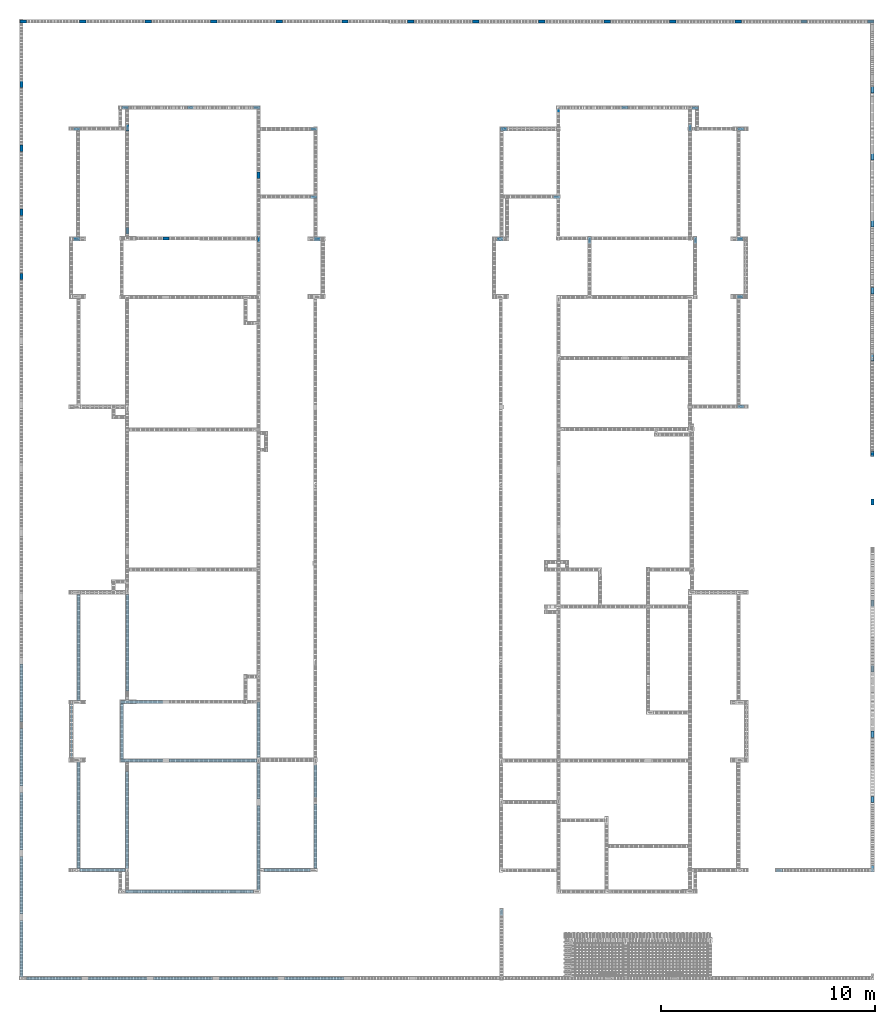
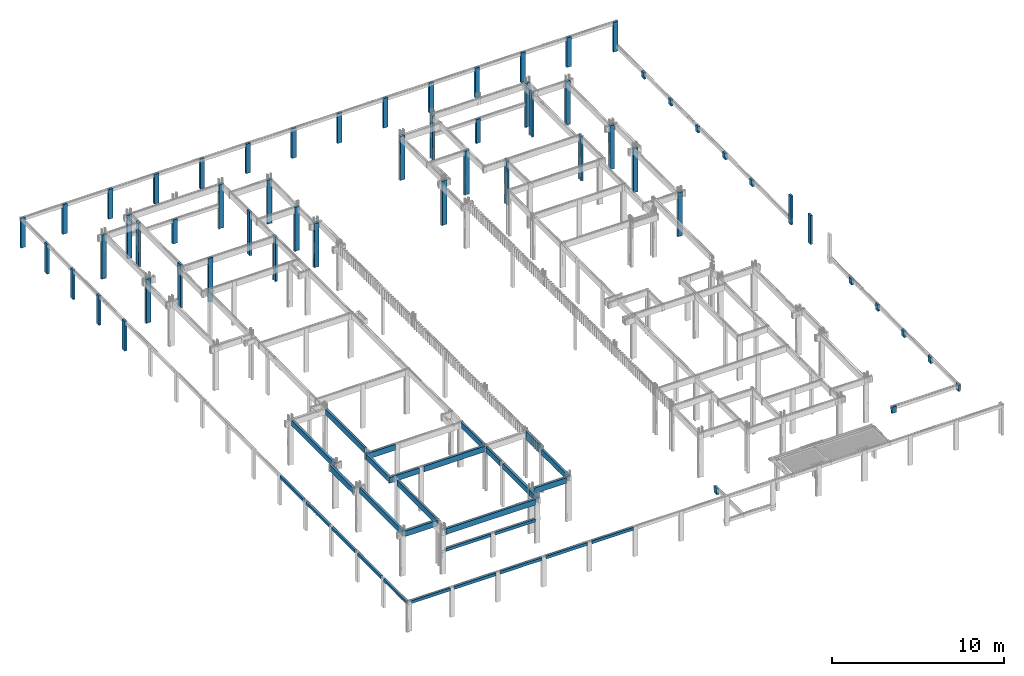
# One storey, part 2 of 236: 58 columns, 30 beams.
"""IFC4 building model written with IfcOpenShell, lengths in centimetres."""

import ifcopenshell
import ifcopenshell.guid

model = None  # the IFC model being written
_history = None  # IfcOwnerHistory: only IFC2X3 demands one
_inside = {}  # id of a spatial element -> (the spatial element, [elements in it])
_under = {}  # id of a project, library or spatial element -> (it, [spatial elements below it])
_declared = {}  # id of a project -> (the project, [libraries it declares])
_typed = {}  # id of a type object -> (the type object, [elements of that type])
_made_of = {}  # id of a material, layer set ... -> (it, [elements and type objects made of it])


def new_model(schema):
    """Start an empty IFC model of exactly this schema.

    Asked for "IFC4X3", IfcOpenShell would pick the latest addendum, in which some entities
    have other attributes; the version numbers below select the first issue.
    IFC2X3 requires an IfcOwnerHistory on every rooted entity: one is made here for all.
    """
    global model, _history
    if schema == "IFC4X3":
        model = ifcopenshell.file(schema_version=(4, 3, 0, 0))
    else:
        model = ifcopenshell.file(schema=schema)
    _inside.clear()
    _under.clear()
    _declared.clear()
    _typed.clear()
    _made_of.clear()
    _history = None
    if model.schema == "IFC2X3":
        org = make("IfcOrganization", Name="unknown")
        user = make(
            "IfcPersonAndOrganization",
            ThePerson=make("IfcPerson", FamilyName="unknown"),
            TheOrganization=org,
        )
        app = make(
            "IfcApplication",
            ApplicationDeveloper=org,
            Version="unknown",
            ApplicationFullName="unknown",
            ApplicationIdentifier="unknown",
        )
        _history = make(
            "IfcOwnerHistory",
            OwningUser=user,
            OwningApplication=app,
            ChangeAction="ADDED",
            CreationDate=0,
        )
    return model


def make(cls, **values):
    """One entity of the class cls with the attributes given. An attribute that is None is left unset."""
    return model.create_entity(
        cls, **{name: value for name, value in values.items() if value is not None}
    )


def rooted(cls, **values):
    """An entity with a GlobalId (a new one), such as an element, a storey or a relation."""
    return make(cls, GlobalId=ifcopenshell.guid.new(), OwnerHistory=_history, **values)


def si_unit(unit_type, name, prefix=None):
    """IfcSIUnit, for example si_unit("LENGTHUNIT", "METRE", prefix="MILLI")."""
    return make("IfcSIUnit", UnitType=unit_type, Prefix=prefix, Name=name)


def derived_unit(unit_type, elements):
    """IfcDerivedUnit: a product of units, each with its exponent."""
    return make(
        "IfcDerivedUnit",
        Elements=[
            make("IfcDerivedUnitElement", Unit=unit, Exponent=power)
            for unit, power in elements
        ],
        UnitType=unit_type,
    )


def assignment(units):
    """IfcUnitAssignment: the units of a project."""
    return None if units is None else make("IfcUnitAssignment", Units=units)


def point(xyz):
    """IfcCartesianPoint."""
    return None if xyz is None else make("IfcCartesianPoint", Coordinates=xyz)


def direction(xyz):
    """IfcDirection."""
    return None if xyz is None else make("IfcDirection", DirectionRatios=xyz)


def frame(location, z_axis=None, x_axis=None):
    """IfcAxis2Placement3D, a coordinate frame: its origin and axes. An axis left out is left unset."""
    return make(
        "IfcAxis2Placement3D",
        Location=point(location),
        Axis=direction(z_axis),
        RefDirection=direction(x_axis),
    )


def frame_2d(location, x_axis=None):
    """IfcAxis2Placement2D, a coordinate frame in the plane: its origin and x axis."""
    return make(
        "IfcAxis2Placement2D", Location=point(location), RefDirection=direction(x_axis)
    )


def origin_with_axes():
    """The frame at (0, 0, 0) with the z axis (0, 0, 1) and the x axis (1, 0, 0) written out."""
    return frame((0.0, 0.0, 0.0), z_axis=(0.0, 0.0, 1.0), x_axis=(1.0, 0.0, 0.0))


def origin_2d_with_axis():
    """The frame at (0, 0) in the plane with the x axis (1, 0) written out."""
    return frame_2d((0.0, 0.0), x_axis=(1.0, 0.0))


def place(relative_to, where):
    """IfcLocalPlacement: puts the frame where relative to a parent placement (None: the world)."""
    return make(
        "IfcLocalPlacement", PlacementRelTo=relative_to, RelativePlacement=where
    )


def context(
    kind, dimensions, precision=None, world=None, true_north=None, identifier=None
):
    """IfcGeometricRepresentationContext, for example the 3D "Model" context."""
    return make(
        "IfcGeometricRepresentationContext",
        ContextIdentifier=identifier,
        ContextType=kind,
        CoordinateSpaceDimension=dimensions,
        Precision=precision,
        WorldCoordinateSystem=world,
        TrueNorth=true_north,
    )


def project(units=None, contexts=None):
    """IfcProject with its units and contexts."""
    return rooted(
        "IfcProject",
        Name="project",
        RepresentationContexts=contexts,
        UnitsInContext=assignment(units),
    )


def spatial(cls, under=None, at=None, **own):
    """A site, building, storey or space (cls), placed at a placement, below another one or the project."""
    s = rooted(cls, ObjectPlacement=at, **own)
    if under is not None:
        _under.setdefault(under.id(), (under, []))[1].append(s)
    return s


def profile(cls, at=None, kind="AREA", **sizes):
    """A parametric profile (cls). Its sizes go by their IFC names, for example OverallWidth=200.0."""
    return make(cls, ProfileType=kind, Position=at, **sizes)


def rectangle(**sizes):
    """IfcRectangleProfileDef."""
    return profile("IfcRectangleProfileDef", **sizes)


def extrude(swept, where, along, depth):
    """IfcExtrudedAreaSolid: the profile swept, set in the frame where, extruded along a direction by depth."""
    return make(
        "IfcExtrudedAreaSolid",
        SweptArea=swept,
        Position=where,
        ExtrudedDirection=direction(along),
        Depth=depth,
    )


def shape(context_of_items, identifier, shape_type, items):
    """IfcShapeRepresentation: the items that make up one representation, for example the "Body"."""
    return make(
        "IfcShapeRepresentation",
        ContextOfItems=context_of_items,
        RepresentationIdentifier=identifier,
        RepresentationType=shape_type,
        Items=items,
    )


def material(Name=None, Category=None):
    """IfcMaterial."""
    return make("IfcMaterial", Name=Name, Category=Category)


def made_of(thing, what):
    """Note that an element or type object is made of a material, layer set ...; save() writes the relation."""
    if what is not None:
        _made_of.setdefault(what.id(), (what, []))[1].append(thing)
    return thing


def element(
    cls,
    number,
    at=None,
    inside=None,
    cuts=None,
    type_object=None,
    material=None,
    context=None,
    identifier="Body",
    shape_type=None,
    held_by="IfcProductDefinitionShape",
    body=None,
    shapes=None,
    **own,
):
    """One element of the class cls, such as IfcWall. Its Tag is "e" and its number.

    at: its placement. inside: the storey or other place that contains it. cuts: it is an
    opening in that element (IfcRelVoidsElement). A single representation is given by context,
    identifier, shape_type and body (its items); several are given by shapes. held_by: the class
    of the entity that holds the representations. save() writes the other relations.
    """
    e = rooted(cls, Tag="e%d" % number, ObjectPlacement=at, **own)
    if body is not None:
        shapes = [shape(context, identifier, shape_type, body)]
    if shapes is not None:
        e.Representation = make(held_by, Representations=shapes)
    if inside is not None:
        _inside.setdefault(inside.id(), (inside, []))[1].append(e)
    if cuts is not None:
        rooted(
            "IfcRelVoidsElement", RelatingBuildingElement=cuts, RelatedOpeningElement=e
        )
    if type_object is not None:
        _typed.setdefault(type_object.id(), (type_object, []))[1].append(e)
    return made_of(e, material)


def aggregate(whole, parts):
    """IfcRelAggregates: a whole, such as a stair, and the parts it consists of."""
    return rooted("IfcRelAggregates", RelatingObject=whole, RelatedObjects=parts)


def save(model, path):
    """Write the relations noted so far, then the file.

    IfcRelAggregates (storeys below a building ...), IfcRelContainedInSpatialStructure (elements
    in a storey), IfcRelDefinesByType, IfcRelAssociatesMaterial and IfcRelDeclares: one each for
    every whole, place, type object, material and project.
    """
    for whole, parts in _under.values():
        aggregate(whole, parts)
    for where, things in _inside.values():
        rooted(
            "IfcRelContainedInSpatialStructure",
            RelatedElements=things,
            RelatingStructure=where,
        )
    for kind, things in _typed.values():
        rooted("IfcRelDefinesByType", RelatedObjects=things, RelatingType=kind)
    for what, things in _made_of.values():
        rooted("IfcRelAssociatesMaterial", RelatedObjects=things, RelatingMaterial=what)
    for by, libraries in _declared.values():
        rooted("IfcRelDeclares", RelatingContext=by, RelatedDefinitions=libraries)
    model.write(path)


model = new_model("IFC4")

# Units and contexts
model_context = context("Model", 3, precision=1e-05, world=origin_with_axes(), identifier="Body")
ifc_project = project(units=[si_unit("LENGTHUNIT", "METRE", prefix="CENTI"), si_unit("VOLUMEUNIT", "CUBIC_METRE"), si_unit("AREAUNIT", "SQUARE_METRE"), si_unit("POWERUNIT", "WATT"), si_unit("LUMINOUSFLUXUNIT", "LUMEN"), si_unit("ELECTRICCURRENTUNIT", "AMPERE"), si_unit("PRESSUREUNIT", "PASCAL", prefix="KILO"), si_unit("MASSUNIT", "GRAM", prefix="KILO"), si_unit("PLANEANGLEUNIT", "RADIAN"), derived_unit("VOLUMETRICFLOWRATEUNIT", [(si_unit("LENGTHUNIT", "METRE"), 3), (si_unit("TIMEUNIT", "SECOND"), -1)])], contexts=[model_context])

# Site, building, storey
site_placement = place(None, frame((-4000.0, 0.0, 0.0), z_axis=(0.0, 0.0, 1.0), x_axis=(1.0, 0.0, 0.0)))
site = spatial("IfcSite", under=ifc_project, at=site_placement, Name="PADRÃO")
building_placement = place(site_placement, frame((0.0, 0.0, -14.0)))
building = spatial("IfcBuilding", under=site, at=building_placement, Name="CRECHE PRÉ-ESCOLA TIPO 2")
placement_1 = place(building_placement, origin_with_axes())
placement_2 = place(placement_1, frame((0.0, 0.0, 30.0), z_axis=(0.0, 0.0, 1.0), x_axis=(1.0, 0.0, 0.0)))
storey_placement = place(placement_2, frame((0.0, 0.0, 310.0), z_axis=(0.0, 0.0, 1.0), x_axis=(1.0, 0.0, 0.0)))
storey = spatial("IfcBuildingStorey", under=building, at=storey_placement, Name="TERREO", CompositionType="ELEMENT", Elevation=326.0)

# Columns
ifc_material = material(Name="Concreto")
for number, where, z_axis, x_axis, name in (
    (1, (16.5, 4488.5, -100.0), (0.0, 0.0, 1.0), (1.0, 0.0, 0.0), "P1"),
    (2, (2751.0, 4488.5, -100.0), (0.0, 0.0, 1.0), (1.0, 0.0, 0.0), "P10"),
):
    element("IfcColumn", number, at=place(storey_placement, frame(where, z_axis=z_axis, x_axis=x_axis)), inside=storey, material=ifc_material, Name=name, context=model_context, shape_type="SolidModel", body=[
        extrude(rectangle(XDim=14.0, YDim=30.0, at=origin_2d_with_axis()), frame((0.0, 0.0, 0.0), z_axis=(0.0, 0.0, 1.0), x_axis=(0.0, -1.0, 0.0)), (0.0, 0.0, -1.0), 210.0),
    ])
for number, where, z_axis, x_axis, name in (
    (3, (3993.0, 1764.11, -265.0), (0.0, 0.0, 1.0), (1.0, 0.0, 0.0), "P100"),
    (4, (3993.0, 1458.11, -265.0), (0.0, 0.0, 1.0), (1.0, 0.0, 0.0), "P103"),
):
    element("IfcColumn", number, at=place(storey_placement, frame(where, z_axis=z_axis, x_axis=x_axis)), inside=storey, material=ifc_material, Name=name, context=model_context, shape_type="SolidModel", body=[
        extrude(rectangle(XDim=14.0, YDim=30.0, at=origin_2d_with_axis()), frame((0.0, 0.0, 0.0), z_axis=(0.0, 0.0, 1.0), x_axis=(-1.0, 0.0, 0.0)), (0.0, 0.0, -1.0), 45.0),
    ])
column_1_placement = place(storey_placement, frame((3058.0, 4488.12, -100.0), z_axis=(0.0, 0.0, 1.0), x_axis=(1.0, 0.0, 0.0)))
element("IfcColumn", 5, at=column_1_placement, inside=storey, material=ifc_material, Name="P11", context=model_context, shape_type="SolidModel", body=[
    extrude(rectangle(XDim=14.0, YDim=30.0, at=origin_2d_with_axis()), frame((0.0, 0.0, 0.0), z_axis=(0.0, 0.0, 1.0), x_axis=(0.0, -1.0, 0.0)), (0.0, 0.0, -1.0), 210.0),
])
column_2_placement = place(storey_placement, frame((3993.0, 1152.11, -265.0), z_axis=(0.0, 0.0, 1.0), x_axis=(1.0, 0.0, 0.0)))
element("IfcColumn", 6, at=column_2_placement, inside=storey, material=ifc_material, Name="P115", context=model_context, shape_type="SolidModel", body=[
    extrude(rectangle(XDim=14.0, YDim=30.0, at=origin_2d_with_axis()), frame((0.0, 0.0, 0.0), z_axis=(0.0, 0.0, 1.0), x_axis=(-1.0, 0.0, 0.0)), (0.0, 0.0, -1.0), 45.0),
])
for number, where, z_axis, x_axis, name in (
    (7, (3365.0, 4488.0, -100.0), (0.0, 0.0, 1.0), (1.0, 0.0, 0.0), "P12"),
    (8, (3672.0, 4488.0, -100.0), (0.0, 0.0, 1.0), (1.0, 0.0, 0.0), "P13"),
):
    element("IfcColumn", number, at=place(storey_placement, frame(where, z_axis=z_axis, x_axis=x_axis)), inside=storey, material=ifc_material, Name=name, context=model_context, shape_type="SolidModel", body=[
        extrude(rectangle(XDim=14.0, YDim=30.0, at=origin_2d_with_axis()), frame((0.0, 0.0, 0.0), z_axis=(0.0, 0.0, 1.0), x_axis=(0.0, -1.0, 0.0)), (0.0, 0.0, -1.0), 210.0),
    ])
column_3_placement = place(storey_placement, frame((3993.0, 846.11, -265.0), z_axis=(0.0, 0.0, 1.0), x_axis=(1.0, 0.0, 0.0)))
element("IfcColumn", 9, at=column_3_placement, inside=storey, material=ifc_material, Name="P130", context=model_context, shape_type="SolidModel", body=[
    extrude(rectangle(XDim=14.0, YDim=30.0, at=origin_2d_with_axis()), frame((0.0, 0.0, 0.0), z_axis=(0.0, 0.0, 1.0), x_axis=(-1.0, 0.0, 0.0)), (0.0, 0.0, -1.0), 45.0),
])
column_4_placement = place(storey_placement, frame((3984.0, 4488.0, -100.0), z_axis=(0.0, 0.0, 1.0), x_axis=(1.0, 0.0, 0.0)))
element("IfcColumn", 10, at=column_4_placement, inside=storey, material=ifc_material, Name="P14", context=model_context, shape_type="SolidModel", body=[
    extrude(rectangle(XDim=14.0, YDim=30.0, at=origin_2d_with_axis()), frame((0.0, 0.0, 0.0), z_axis=(0.0, 0.0, 1.0), x_axis=(0.0, -1.0, 0.0)), (0.0, 0.0, -1.0), 210.0),
])
column_5_placement = place(storey_placement, frame((3556.0, 514.52, -265.0), z_axis=(0.0, 0.0, 1.0), x_axis=(1.0, 0.0, 0.0)))
element("IfcColumn", 11, at=column_5_placement, inside=storey, material=ifc_material, Name="P141", context=model_context, shape_type="SolidModel", body=[
    extrude(rectangle(XDim=14.0, YDim=30.0, at=origin_2d_with_axis()), frame((0.0, 0.0, 0.0), z_axis=(0.0, 0.0, 1.0), x_axis=(0.0, -1.0, 0.0)), (0.0, 0.0, -1.0), 45.0),
])
column_6_placement = place(storey_placement, frame((3993.0, 522.51, -265.0), z_axis=(0.0, 0.0, 1.0), x_axis=(1.0, 0.0, 0.0)))
element("IfcColumn", 12, at=column_6_placement, inside=storey, material=ifc_material, Name="P142", context=model_context, shape_type="SolidModel", body=[
    extrude(rectangle(XDim=14.0, YDim=30.0, at=origin_2d_with_axis()), frame((0.0, 0.0, 0.0), z_axis=(0.0, 0.0, 1.0), x_axis=(-1.0, 0.0, 0.0)), (0.0, 0.0, -1.0), 45.0),
])
column_7_placement = place(storey_placement, frame((8.5, 4194.5, -100.0), z_axis=(0.0, 0.0, 1.0), x_axis=(1.0, 0.0, 0.0)))
element("IfcColumn", 13, at=column_7_placement, inside=storey, material=ifc_material, Name="P15", context=model_context, shape_type="SolidModel", body=[
    extrude(rectangle(XDim=14.0, YDim=30.0, at=origin_2d_with_axis()), origin_with_axes(), (0.0, 0.0, -1.0), 210.0),
])
column_8_placement = place(storey_placement, frame((2255.98, 319.02, -265.0), z_axis=(0.0, 0.0, 1.0), x_axis=(1.0, 0.0, 0.0)))
element("IfcColumn", 14, at=column_8_placement, inside=storey, material=ifc_material, Name="P150", context=model_context, shape_type="SolidModel", body=[
    extrude(rectangle(XDim=14.0, YDim=30.0, at=origin_2d_with_axis()), origin_with_axes(), (0.0, 0.0, -1.0), 45.0),
])
column_9_placement = place(storey_placement, frame((3992.0, 4168.5, -265.0), z_axis=(0.0, 0.0, 1.0), x_axis=(1.0, 0.0, 0.0)))
element("IfcColumn", 15, at=column_9_placement, inside=storey, material=ifc_material, Name="P16", context=model_context, shape_type="SolidModel", body=[
    extrude(rectangle(XDim=14.0, YDim=30.0, at=origin_2d_with_axis()), frame((0.0, 0.0, 0.0), z_axis=(0.0, 0.0, 1.0), x_axis=(-1.0, 0.0, 0.0)), (0.0, 0.0, -1.0), 45.0),
])
column_10_placement = place(storey_placement, frame((494.67, 4085.0, 0.0), z_axis=(0.0, 0.0, 1.0), x_axis=(1.0, 0.0, 0.0)))
element("IfcColumn", 16, at=column_10_placement, inside=storey, material=ifc_material, Name="P17", context=model_context, shape_type="SolidModel", body=[
    extrude(rectangle(XDim=14.0, YDim=30.0, at=origin_2d_with_axis()), frame((0.0, 0.0, 0.0), z_axis=(0.0, 0.0, 1.0), x_axis=(0.0, 1.0, 0.0)), (0.0, 0.0, -1.0), 310.0),
])
column_11_placement = place(storey_placement, frame((799.85, 4085.0, -140.0), z_axis=(0.0, 0.0, 1.0), x_axis=(1.0, 0.0, 0.0)))
element("IfcColumn", 17, at=column_11_placement, inside=storey, material=ifc_material, Name="P18", context=model_context, shape_type="SolidModel", body=[
    extrude(rectangle(XDim=14.0, YDim=30.0, at=origin_2d_with_axis()), frame((0.0, 0.0, 0.0), z_axis=(0.0, 0.0, 1.0), x_axis=(0.0, -1.0, 0.0)), (0.0, 0.0, -1.0), 170.0),
])
column_12_placement = place(storey_placement, frame((1109.71, 4085.0, 0.0), z_axis=(0.0, 0.0, 1.0), x_axis=(1.0, 0.0, 0.0)))
element("IfcColumn", 18, at=column_12_placement, inside=storey, material=ifc_material, Name="P19", context=model_context, shape_type="SolidModel", body=[
    extrude(rectangle(XDim=14.0, YDim=30.0, at=origin_2d_with_axis()), frame((0.0, 0.0, 0.0), z_axis=(0.0, 0.0, 1.0), x_axis=(0.0, -1.0, 0.0)), (0.0, 0.0, -1.0), 310.0),
])
column_13_placement = place(storey_placement, frame((295.0, 4488.5, -100.0), z_axis=(0.0, 0.0, 1.0), x_axis=(1.0, 0.0, 0.0)))
element("IfcColumn", 19, at=column_13_placement, inside=storey, material=ifc_material, Name="P2", context=model_context, shape_type="SolidModel", body=[
    extrude(rectangle(XDim=14.0, YDim=30.0, at=origin_2d_with_axis()), frame((0.0, 0.0, 0.0), z_axis=(0.0, 0.0, 1.0), x_axis=(0.0, -1.0, 0.0)), (0.0, 0.0, -1.0), 210.0),
])
column_14_placement = place(storey_placement, frame((2522.5, 4077.02, 0.0), z_axis=(0.0, 0.0, 1.0), x_axis=(1.0, 0.0, 0.0)))
element("IfcColumn", 20, at=column_14_placement, inside=storey, material=ifc_material, Name="P20", context=model_context, shape_type="SolidModel", body=[
    extrude(rectangle(XDim=14.0, YDim=30.0, at=origin_2d_with_axis()), origin_with_axes(), (0.0, 0.0, -1.0), 310.0),
])
column_15_placement = place(storey_placement, frame((2831.98, 4085.02, -140.0), z_axis=(0.0, 0.0, 1.0), x_axis=(1.0, 0.0, 0.0)))
element("IfcColumn", 21, at=column_15_placement, inside=storey, material=ifc_material, Name="P21", context=model_context, shape_type="SolidModel", body=[
    extrude(rectangle(XDim=14.0, YDim=30.0, at=origin_2d_with_axis()), frame((0.0, 0.0, 0.0), z_axis=(0.0, 0.0, 1.0), x_axis=(0.0, -1.0, 0.0)), (0.0, 0.0, -1.0), 170.0),
])
for number, where, z_axis, x_axis, name in (
    (22, (3163.5, 4084.02, 0.0), (0.0, 0.0, 1.0), (1.0, 0.0, 0.0), "P22"),
    (23, (267.0, 3985.0, 0.0), (0.0, 0.0, 1.0), (1.0, 0.0, 0.0), "P23"),
):
    element("IfcColumn", number, at=place(storey_placement, frame(where, z_axis=z_axis, x_axis=x_axis)), inside=storey, material=ifc_material, Name=name, context=model_context, shape_type="SolidModel", body=[
        extrude(rectangle(XDim=14.0, YDim=30.0, at=origin_2d_with_axis()), frame((0.0, 0.0, 0.0), z_axis=(0.0, 0.0, 1.0), x_axis=(0.0, -1.0, 0.0)), (0.0, 0.0, -1.0), 310.0),
    ])
column_16_placement = place(storey_placement, frame((503.67, 3991.5, 0.0), z_axis=(0.0, 0.0, 1.0), x_axis=(1.0, 0.0, 0.0)))
element("IfcColumn", 24, at=column_16_placement, inside=storey, material=ifc_material, Name="P24", context=model_context, shape_type="SolidModel", body=[
    extrude(rectangle(XDim=14.0, YDim=30.0, at=origin_2d_with_axis()), origin_with_axes(), (0.0, 0.0, -1.0), 310.0),
])
column_17_placement = place(storey_placement, frame((1376.84, 3985.0, 0.0), z_axis=(0.0, 0.0, 1.0), x_axis=(1.0, 0.0, 0.0)))
element("IfcColumn", 25, at=column_17_placement, inside=storey, material=ifc_material, Name="P25", context=model_context, shape_type="SolidModel", body=[
    extrude(rectangle(XDim=14.0, YDim=30.0, at=origin_2d_with_axis()), frame((0.0, 0.0, 0.0), z_axis=(0.0, 0.0, 1.0), x_axis=(0.0, -1.0, 0.0)), (0.0, 0.0, -1.0), 310.0),
])
column_18_placement = place(storey_placement, frame((2266.76, 3985.0, 0.0), z_axis=(0.0, 0.0, 1.0), x_axis=(1.0, 0.0, 0.0)))
element("IfcColumn", 26, at=column_18_placement, inside=storey, material=ifc_material, Name="P26", context=model_context, shape_type="SolidModel", body=[
    extrude(rectangle(XDim=17.0, YDim=30.0, at=origin_2d_with_axis()), frame((0.0, 0.0, 0.0), z_axis=(0.0, 0.0, 1.0), x_axis=(0.0, -1.0, 0.0)), (0.0, 0.0, -1.0), 310.0),
])
column_19_placement = place(storey_placement, frame((3138.5, 3991.51, 0.0), z_axis=(0.0, 0.0, 1.0), x_axis=(1.0, 0.0, 0.0)))
element("IfcColumn", 27, at=column_19_placement, inside=storey, material=ifc_material, Name="P27", context=model_context, shape_type="SolidModel", body=[
    extrude(rectangle(XDim=14.0, YDim=30.0, at=origin_2d_with_axis()), origin_with_axes(), (0.0, 0.0, -1.0), 310.0),
])
column_20_placement = place(storey_placement, frame((3375.0, 3985.01, 0.0), z_axis=(0.0, 0.0, 1.0), x_axis=(1.0, 0.0, 0.0)))
element("IfcColumn", 28, at=column_20_placement, inside=storey, material=ifc_material, Name="P28", context=model_context, shape_type="SolidModel", body=[
    extrude(rectangle(XDim=14.0, YDim=30.0, at=origin_2d_with_axis()), frame((0.0, 0.0, 0.0), z_axis=(0.0, 0.0, 1.0), x_axis=(0.0, -1.0, 0.0)), (0.0, 0.0, -1.0), 310.0),
])
column_21_placement = place(storey_placement, frame((8.5, 3894.5, -100.0), z_axis=(0.0, 0.0, 1.0), x_axis=(1.0, 0.0, 0.0)))
element("IfcColumn", 29, at=column_21_placement, inside=storey, material=ifc_material, Name="P29", context=model_context, shape_type="SolidModel", body=[
    extrude(rectangle(XDim=14.0, YDim=30.0, at=origin_2d_with_axis()), origin_with_axes(), (0.0, 0.0, -1.0), 210.0),
])
column_22_placement = place(storey_placement, frame((602.0, 4488.45, -100.0), z_axis=(0.0, 0.0, 1.0), x_axis=(1.0, 0.0, 0.0)))
element("IfcColumn", 30, at=column_22_placement, inside=storey, material=ifc_material, Name="P3", context=model_context, shape_type="SolidModel", body=[
    extrude(rectangle(XDim=14.0, YDim=30.0, at=origin_2d_with_axis()), frame((0.0, 0.0, 0.0), z_axis=(0.0, 0.0, 1.0), x_axis=(0.0, -1.0, 0.0)), (0.0, 0.0, -1.0), 210.0),
])
column_23_placement = place(storey_placement, frame((3992.0, 3855.0, -265.0), z_axis=(0.0, 0.0, 1.0), x_axis=(1.0, 0.0, 0.0)))
element("IfcColumn", 31, at=column_23_placement, inside=storey, material=ifc_material, Name="P30", context=model_context, shape_type="SolidModel", body=[
    extrude(rectangle(XDim=14.0, YDim=30.0, at=origin_2d_with_axis()), frame((0.0, 0.0, 0.0), z_axis=(0.0, 0.0, 1.0), x_axis=(-1.0, 0.0, 0.0)), (0.0, 0.0, -1.0), 45.0),
])
column_24_placement = place(storey_placement, frame((1118.72, 3767.78, 0.0), z_axis=(0.0, 0.0, 1.0), x_axis=(1.0, 0.0, 0.0)))
element("IfcColumn", 32, at=column_24_placement, inside=storey, material=ifc_material, Name="P31", context=model_context, shape_type="SolidModel", body=[
    extrude(rectangle(XDim=14.0, YDim=30.0, at=origin_2d_with_axis()), origin_with_axes(), (0.0, 0.0, -1.0), 310.0),
])
column_25_placement = place(storey_placement, frame((1376.84, 3667.5, 0.0), z_axis=(0.0, 0.0, 1.0), x_axis=(1.0, 0.0, 0.0)))
element("IfcColumn", 33, at=column_25_placement, inside=storey, material=ifc_material, Name="P33", context=model_context, shape_type="SolidModel", body=[
    extrude(rectangle(XDim=14.0, YDim=30.0, at=origin_2d_with_axis()), frame((0.0, 0.0, 0.0), z_axis=(0.0, 0.0, 1.0), x_axis=(0.0, 1.0, 0.0)), (0.0, 0.0, -1.0), 310.0),
])
column_26_placement = place(storey_placement, frame((2514.5, 3667.75, 0.0), z_axis=(0.0, 0.0, 1.0), x_axis=(1.0, 0.0, 0.0)))
element("IfcColumn", 34, at=column_26_placement, inside=storey, material=ifc_material, Name="P34", context=model_context, shape_type="SolidModel", body=[
    extrude(rectangle(XDim=14.0, YDim=30.0, at=origin_2d_with_axis()), frame((0.0, 0.0, 0.0), z_axis=(0.0, 0.0, 1.0), x_axis=(0.0, -1.0, 0.0)), (0.0, 0.0, -1.0), 310.0),
])
column_27_placement = place(storey_placement, frame((8.5, 3594.5, -100.0), z_axis=(0.0, 0.0, 1.0), x_axis=(1.0, 0.0, 0.0)))
element("IfcColumn", 35, at=column_27_placement, inside=storey, material=ifc_material, Name="P35", context=model_context, shape_type="SolidModel", body=[
    extrude(rectangle(XDim=14.0, YDim=30.0, at=origin_2d_with_axis()), origin_with_axes(), (0.0, 0.0, -1.0), 210.0),
])
column_28_placement = place(storey_placement, frame((267.01, 3470.0, 0.0), z_axis=(0.0, 0.0, 1.0), x_axis=(1.0, 0.0, 0.0)))
element("IfcColumn", 36, at=column_28_placement, inside=storey, material=ifc_material, Name="P36", context=model_context, shape_type="SolidModel", body=[
    extrude(rectangle(XDim=17.0, YDim=30.0, at=origin_2d_with_axis()), frame((0.0, 0.0, 0.0), z_axis=(0.0, 0.0, 1.0), x_axis=(0.0, -1.0, 0.0)), (0.0, 0.0, -1.0), 310.0),
])
column_29_placement = place(storey_placement, frame((503.67, 3508.5, 0.0), z_axis=(0.0, 0.0, 1.0), x_axis=(1.0, 0.0, 0.0)))
element("IfcColumn", 37, at=column_29_placement, inside=storey, material=ifc_material, Name="P37", context=model_context, shape_type="SolidModel", body=[
    extrude(rectangle(XDim=14.0, YDim=30.0, at=origin_2d_with_axis()), origin_with_axes(), (0.0, 0.0, -1.0), 310.0),
])
column_30_placement = place(storey_placement, frame((3992.0, 3541.5, -265.0), z_axis=(0.0, 0.0, 1.0), x_axis=(1.0, 0.0, 0.0)))
element("IfcColumn", 38, at=column_30_placement, inside=storey, material=ifc_material, Name="P38", context=model_context, shape_type="SolidModel", body=[
    extrude(rectangle(XDim=14.0, YDim=30.0, at=origin_2d_with_axis()), frame((0.0, 0.0, 0.0), z_axis=(0.0, 0.0, 1.0), x_axis=(-1.0, 0.0, 0.0)), (0.0, 0.0, -1.0), 45.0),
])
column_31_placement = place(storey_placement, frame((685.0, 3472.49, 0.0), z_axis=(0.0, 0.0, 1.0), x_axis=(1.0, 0.0, 0.0)))
element("IfcColumn", 39, at=column_31_placement, inside=storey, material=ifc_material, Name="P39", context=model_context, shape_type="SolidModel", body=[
    extrude(rectangle(XDim=14.0, YDim=30.0, at=origin_2d_with_axis()), frame((0.0, 0.0, 0.0), z_axis=(0.0, 0.0, 1.0), x_axis=(0.0, -1.0, 0.0)), (0.0, 0.0, -1.0), 310.0),
])
column_32_placement = place(storey_placement, frame((909.0, 4488.5, -100.0), z_axis=(0.0, 0.0, 1.0), x_axis=(1.0, 0.0, 0.0)))
element("IfcColumn", 40, at=column_32_placement, inside=storey, material=ifc_material, Name="P4", context=model_context, shape_type="SolidModel", body=[
    extrude(rectangle(XDim=14.0, YDim=30.0, at=origin_2d_with_axis()), frame((0.0, 0.0, 0.0), z_axis=(0.0, 0.0, 1.0), x_axis=(0.0, -1.0, 0.0)), (0.0, 0.0, -1.0), 210.0),
])
column_33_placement = place(storey_placement, frame((1118.72, 3470.0, 0.0), z_axis=(0.0, 0.0, 1.0), x_axis=(1.0, 0.0, 0.0)))
element("IfcColumn", 41, at=column_33_placement, inside=storey, material=ifc_material, Name="P40", context=model_context, shape_type="SolidModel", body=[
    extrude(rectangle(XDim=14.0, YDim=30.0, at=origin_2d_with_axis()), origin_with_axes(), (0.0, 0.0, -1.0), 310.0),
])
for number, where, z_axis, x_axis, name in (
    (42, (1392.84, 3470.02, 0.0), (0.0, 0.0, 1.0), (1.0, 0.0, 0.0), "P41"),
    (43, (2248.76, 3470.02, 0.0), (0.0, 0.0, 1.0), (1.0, 0.0, 0.0), "P42"),
):
    element("IfcColumn", number, at=place(storey_placement, frame(where, z_axis=z_axis, x_axis=x_axis)), inside=storey, material=ifc_material, Name=name, context=model_context, shape_type="SolidModel", body=[
        extrude(rectangle(XDim=17.0, YDim=30.0, at=origin_2d_with_axis()), frame((0.0, 0.0, 0.0), z_axis=(0.0, 0.0, 1.0), x_axis=(0.0, -1.0, 0.0)), (0.0, 0.0, -1.0), 310.0),
    ])
for number, where, z_axis, x_axis, name in (
    (44, (2668.0, 3464.58, 0.0), (0.0, 0.0, 1.0), (1.0, 0.0, 0.0), "P43"),
    (45, (3163.5, 3464.58, 0.0), (0.0, 0.0, 1.0), (1.0, 0.0, 0.0), "P44"),
):
    element("IfcColumn", number, at=place(storey_placement, frame(where, z_axis=z_axis, x_axis=x_axis)), inside=storey, material=ifc_material, Name=name, context=model_context, shape_type="SolidModel", body=[
        extrude(rectangle(XDim=14.0, YDim=30.0, at=origin_2d_with_axis()), origin_with_axes(), (0.0, 0.0, -1.0), 310.0),
    ])
column_34_placement = place(storey_placement, frame((3372.5, 3470.02, 0.0), z_axis=(0.0, 0.0, 1.0), x_axis=(1.0, 0.0, 0.0)))
element("IfcColumn", 46, at=column_34_placement, inside=storey, material=ifc_material, Name="P45", context=model_context, shape_type="SolidModel", body=[
    extrude(rectangle(XDim=17.0, YDim=30.0, at=origin_2d_with_axis()), frame((0.0, 0.0, 0.0), z_axis=(0.0, 0.0, 1.0), x_axis=(0.0, -1.0, 0.0)), (0.0, 0.0, -1.0), 310.0),
])
column_35_placement = place(storey_placement, frame((8.5, 3294.5, -100.0), z_axis=(0.0, 0.0, 1.0), x_axis=(1.0, 0.0, 0.0)))
element("IfcColumn", 47, at=column_35_placement, inside=storey, material=ifc_material, Name="P46", context=model_context, shape_type="SolidModel", body=[
    extrude(rectangle(XDim=14.0, YDim=30.0, at=origin_2d_with_axis()), origin_with_axes(), (0.0, 0.0, -1.0), 210.0),
])
column_36_placement = place(storey_placement, frame((1216.0, 4488.5, -100.0), z_axis=(0.0, 0.0, 1.0), x_axis=(1.0, 0.0, 0.0)))
element("IfcColumn", 48, at=column_36_placement, inside=storey, material=ifc_material, Name="P5", context=model_context, shape_type="SolidModel", body=[
    extrude(rectangle(XDim=14.0, YDim=30.0, at=origin_2d_with_axis()), frame((0.0, 0.0, 0.0), z_axis=(0.0, 0.0, 1.0), x_axis=(0.0, -1.0, 0.0)), (0.0, 0.0, -1.0), 210.0),
])
column_37_placement = place(storey_placement, frame((3372.5, 3200.02, 0.0), z_axis=(0.0, 0.0, 1.0), x_axis=(1.0, 0.0, 0.0)))
element("IfcColumn", 49, at=column_37_placement, inside=storey, material=ifc_material, Name="P56", context=model_context, shape_type="SolidModel", body=[
    extrude(rectangle(XDim=17.0, YDim=30.0, at=origin_2d_with_axis()), frame((0.0, 0.0, 0.0), z_axis=(0.0, 0.0, 1.0), x_axis=(0.0, -1.0, 0.0)), (0.0, 0.0, -1.0), 310.0),
])
column_38_placement = place(storey_placement, frame((3992.0, 3228.0, -265.0), z_axis=(0.0, 0.0, 1.0), x_axis=(1.0, 0.0, 0.0)))
element("IfcColumn", 50, at=column_38_placement, inside=storey, material=ifc_material, Name="P57", context=model_context, shape_type="SolidModel", body=[
    extrude(rectangle(XDim=14.0, YDim=30.0, at=origin_2d_with_axis()), frame((0.0, 0.0, 0.0), z_axis=(0.0, 0.0, 1.0), x_axis=(-1.0, 0.0, 0.0)), (0.0, 0.0, -1.0), 45.0),
])
column_39_placement = place(storey_placement, frame((1523.0, 4488.33, -100.0), z_axis=(0.0, 0.0, 1.0), x_axis=(1.0, 0.0, 0.0)))
element("IfcColumn", 51, at=column_39_placement, inside=storey, material=ifc_material, Name="P6", context=model_context, shape_type="SolidModel", body=[
    extrude(rectangle(XDim=14.0, YDim=30.0, at=origin_2d_with_axis()), frame((0.0, 0.0, 0.0), z_axis=(0.0, 0.0, 1.0), x_axis=(0.0, -1.0, 0.0)), (0.0, 0.0, -1.0), 210.0),
])
column_40_placement = place(storey_placement, frame((3992.0, 2914.5, -265.0), z_axis=(0.0, 0.0, 1.0), x_axis=(1.0, 0.0, 0.0)))
element("IfcColumn", 52, at=column_40_placement, inside=storey, material=ifc_material, Name="P63", context=model_context, shape_type="SolidModel", body=[
    extrude(rectangle(XDim=14.0, YDim=30.0, at=origin_2d_with_axis()), frame((0.0, 0.0, 0.0), z_axis=(0.0, 0.0, 1.0), x_axis=(-1.0, 0.0, 0.0)), (0.0, 0.0, -1.0), 45.0),
])
column_41_placement = place(storey_placement, frame((3376.0, 2685.02, 0.0), z_axis=(0.0, 0.0, 1.0), x_axis=(1.0, 0.0, 0.0)))
element("IfcColumn", 53, at=column_41_placement, inside=storey, material=ifc_material, Name="P69", context=model_context, shape_type="SolidModel", body=[
    extrude(rectangle(XDim=14.0, YDim=30.0, at=origin_2d_with_axis()), frame((0.0, 0.0, 0.0), z_axis=(0.0, 0.0, 1.0), x_axis=(0.0, -1.0, 0.0)), (0.0, 0.0, -1.0), 310.0),
])
column_42_placement = place(storey_placement, frame((1830.0, 4488.5, -100.0), z_axis=(0.0, 0.0, 1.0), x_axis=(1.0, 0.0, 0.0)))
element("IfcColumn", 54, at=column_42_placement, inside=storey, material=ifc_material, Name="P7", context=model_context, shape_type="SolidModel", body=[
    extrude(rectangle(XDim=14.0, YDim=30.0, at=origin_2d_with_axis()), frame((0.0, 0.0, 0.0), z_axis=(0.0, 0.0, 1.0), x_axis=(0.0, -1.0, 0.0)), (0.0, 0.0, -1.0), 210.0),
])
column_43_placement = place(storey_placement, frame((3993.0, 2464.77, -105.0), z_axis=(0.0, 0.0, 1.0), x_axis=(1.0, 0.0, 0.0)))
element("IfcColumn", 55, at=column_43_placement, inside=storey, material=ifc_material, Name="P76", context=model_context, shape_type="SolidModel", body=[
    extrude(rectangle(XDim=14.0, YDim=25.0, at=origin_2d_with_axis()), frame((0.0, 0.0, 0.0), z_axis=(0.0, 0.0, 1.0), x_axis=(-1.0, 0.0, 0.0)), (0.0, 0.0, -1.0), 205.0),
])
column_44_placement = place(storey_placement, frame((2135.99, 4488.5, -100.0), z_axis=(0.0, 0.0, 1.0), x_axis=(1.0, 0.0, 0.0)))
element("IfcColumn", 56, at=column_44_placement, inside=storey, material=ifc_material, Name="P8", context=model_context, shape_type="SolidModel", body=[
    extrude(rectangle(XDim=14.0, YDim=30.0, at=origin_2d_with_axis()), frame((0.0, 0.0, 0.0), z_axis=(0.0, 0.0, 1.0), x_axis=(0.0, -1.0, 0.0)), (0.0, 0.0, -1.0), 210.0),
])
column_45_placement = place(storey_placement, frame((3992.0, 2238.69, -105.0), z_axis=(0.0, 0.0, 1.0), x_axis=(1.0, 0.0, 0.0)))
element("IfcColumn", 57, at=column_45_placement, inside=storey, material=ifc_material, Name="P81", context=model_context, shape_type="SolidModel", body=[
    extrude(rectangle(XDim=14.0, YDim=30.0, at=origin_2d_with_axis()), frame((0.0, 0.0, 0.0), z_axis=(0.0, 0.0, 1.0), x_axis=(-1.0, 0.0, 0.0)), (0.0, 0.0, -1.0), 205.0),
])
column_46_placement = place(storey_placement, frame((2444.0, 4488.19, -100.0), z_axis=(0.0, 0.0, 1.0), x_axis=(1.0, 0.0, 0.0)))
element("IfcColumn", 58, at=column_46_placement, inside=storey, material=ifc_material, Name="P9", context=model_context, shape_type="SolidModel", body=[
    extrude(rectangle(XDim=14.0, YDim=30.0, at=origin_2d_with_axis()), frame((0.0, 0.0, 0.0), z_axis=(0.0, 0.0, 1.0), x_axis=(0.0, -1.0, 0.0)), (0.0, 0.0, -1.0), 210.0),
])

# Beams
for number, where, z_axis, x_axis, name in (
    (59, (570.845, 1302.5, 0.0), (0.0, 0.0, 1.0), (1.0, 0.0, 0.0), "V242"),
    (60, (570.845, 1027.51, 0.0), (0.0, 0.0, 1.0), (1.0, 0.0, 0.0), "V246"),
):
    element("IfcBeam", number, at=place(storey_placement, frame(where, z_axis=z_axis, x_axis=x_axis)), inside=storey, material=ifc_material, Name=name, context=model_context, shape_type="SolidModel", body=[
        extrude(rectangle(XDim=14.0, YDim=40.0, at=origin_2d_with_axis()), frame((-99.155, 0.0, -20.0), z_axis=(1.0, 0.0, 0.0), x_axis=(0.0, 1.0, 0.0)), (0.0, 0.0, 1.0), 198.31),
    ])
beam_1_placement = place(storey_placement, frame((905.86, 1027.51, 0.0), z_axis=(0.0, 0.0, 1.0), x_axis=(1.0, 0.0, 0.0)))
element("IfcBeam", 61, at=beam_1_placement, inside=storey, material=ifc_material, Name="V246", context=model_context, shape_type="SolidModel", body=[
    extrude(rectangle(XDim=14.0, YDim=40.0, at=origin_2d_with_axis()), frame((-205.86, 0.0, -20.0), z_axis=(1.0, 0.0, 0.0), x_axis=(0.0, 1.0, 0.0)), (0.0, 0.0, 1.0), 411.72),
])
beam_2_placement = place(storey_placement, frame((388.785, 515.0, 0.0), z_axis=(0.0, 0.0, 1.0), x_axis=(1.0, 0.0, 0.0)))
element("IfcBeam", 62, at=beam_2_placement, inside=storey, material=ifc_material, Name="V253", context=model_context, shape_type="SolidModel", body=[
    extrude(rectangle(XDim=14.0, YDim=40.0, at=origin_2d_with_axis()), frame((-107.785, 0.0, -20.0), z_axis=(1.0, 0.0, 0.0), x_axis=(0.0, 1.0, 0.0)), (0.0, 0.0, 1.0), 215.57),
])
beam_3_placement = place(storey_placement, frame((1252.28, 515.01, 0.0), z_axis=(0.0, 0.0, 1.0), x_axis=(1.0, 0.0, 0.0)))
element("IfcBeam", 63, at=beam_3_placement, inside=storey, material=ifc_material, Name="V254", context=model_context, shape_type="SolidModel", body=[
    extrude(rectangle(XDim=14.0, YDim=40.0, at=origin_2d_with_axis()), frame((-109.56, 0.0, -20.0), z_axis=(1.0, 0.0, 0.0), x_axis=(0.0, 1.0, 0.0)), (0.0, 0.0, 1.0), 219.12),
])
beam_4_placement = place(storey_placement, frame((795.36, 415.005, 0.0), z_axis=(0.0, 0.0, 1.0), x_axis=(1.0, 0.0, 0.0)))
element("IfcBeam", 64, at=beam_4_placement, inside=storey, material=ifc_material, Name="V257", context=model_context, shape_type="SolidModel", body=[
    extrude(rectangle(XDim=14.0, YDim=40.0, at=origin_2d_with_axis()), frame((-300.36, -0.005, -20.0), z_axis=(1.0, 1.6646690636e-05, 0.0), x_axis=(-1.6646690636e-05, 1.0, 0.0)), (0.0, 0.0, 1.0), 600.72),
])
beam_5_placement = place(storey_placement, frame((276.0, 772.0, 0.0), z_axis=(0.0, 0.0, 1.0), x_axis=(1.0, 0.0, 0.0)))
element("IfcBeam", 65, at=beam_5_placement, inside=storey, material=ifc_material, Name="V259", context=model_context, shape_type="SolidModel", body=[
    extrude(rectangle(XDim=14.0, YDim=40.0, at=origin_2d_with_axis()), frame((0.0, -250.0, -20.0), z_axis=(0.0, 1.0, 0.0), x_axis=(-1.0, 0.0, 0.0)), (0.0, 0.0, 1.0), 500.0),
])
beam_6_placement = place(storey_placement, frame((242.35, 1173.75, 0.0), z_axis=(0.0, 0.0, 1.0), x_axis=(1.0, 0.0, 0.0)))
element("IfcBeam", 66, at=beam_6_placement, inside=storey, material=ifc_material, Name="V260", context=model_context, shape_type="SolidModel", body=[
    extrude(rectangle(XDim=17.0, YDim=40.0, at=origin_2d_with_axis()), frame((0.0, -134.75, -20.0), z_axis=(0.0, 1.0, 0.0), x_axis=(-1.0, 0.0, 0.0)), (0.0, 0.0, 1.0), 269.5),
])
beam_7_placement = place(storey_placement, frame((276.0, 1557.5, 0.0), z_axis=(0.0, 0.0, 1.0), x_axis=(1.0, 0.0, 0.0)))
element("IfcBeam", 67, at=beam_7_placement, inside=storey, material=ifc_material, Name="V261", context=model_context, shape_type="SolidModel", body=[
    extrude(rectangle(XDim=14.0, YDim=40.0, at=origin_2d_with_axis()), frame((0.0, -249.0, -20.0), z_axis=(0.0, 1.0, 0.0), x_axis=(-1.0, 0.0, 0.0)), (0.0, 0.0, 1.0), 498.0),
])
beam_8_placement = place(storey_placement, frame((503.57, 750.01, 0.0), z_axis=(0.0, 0.0, 1.0), x_axis=(1.0, 0.0, 0.0)))
element("IfcBeam", 68, at=beam_8_placement, inside=storey, material=ifc_material, Name="V265", context=model_context, shape_type="SolidModel", body=[
    extrude(rectangle(XDim=14.0, YDim=40.0, at=origin_2d_with_axis()), frame((0.0, -226.5, -20.0), z_axis=(0.0, 1.0, 0.0), x_axis=(1.0, 0.0, 0.0)), (0.0, 0.0, 1.0), 453.0),
])
beam_9_placement = place(storey_placement, frame((478.69, 1165.005, 0.0), z_axis=(0.0, 0.0, 1.0), x_axis=(1.0, 0.0, 0.0)))
element("IfcBeam", 69, at=beam_9_placement, inside=storey, material=ifc_material, Name="V267", context=model_context, shape_type="SolidModel", body=[
    extrude(rectangle(XDim=14.0, YDim=40.0, at=origin_2d_with_axis()), frame((0.0, -130.495, -20.0), z_axis=(0.0, 1.0, 0.0), x_axis=(-1.0, 0.0, 0.0)), (0.0, 0.0, 1.0), 260.99),
])
beam_10_placement = place(storey_placement, frame((503.69, 1580.005, 0.0), z_axis=(0.0, 0.0, 1.0), x_axis=(1.0, 0.0, 0.0)))
element("IfcBeam", 70, at=beam_10_placement, inside=storey, material=ifc_material, Name="V270", context=model_context, shape_type="SolidModel", body=[
    extrude(rectangle(XDim=14.0, YDim=40.0, at=origin_2d_with_axis()), frame((0.0, -226.495, -20.0), z_axis=(0.0, 1.0, 0.0), x_axis=(-1.0, 0.0, 0.0)), (0.0, 0.0, 1.0), 452.99),
])
beam_11_placement = place(storey_placement, frame((1118.72, 931.0, 0.0), z_axis=(0.0, 0.0, 1.0), x_axis=(1.0, 0.0, 0.0)))
element("IfcBeam", 71, at=beam_11_placement, inside=storey, material=ifc_material, Name="V276", context=model_context, shape_type="SolidModel", body=[
    extrude(rectangle(XDim=14.0, YDim=40.0, at=origin_2d_with_axis()), frame((0.0, -82.5, -20.0), z_axis=(0.0, 1.0, 0.0), x_axis=(1.0, 0.0, 0.0)), (0.0, 0.0, 1.0), 165.0),
])
beam_12_placement = place(storey_placement, frame((1118.72, 666.755, 0.0), z_axis=(0.0, 0.0, 1.0), x_axis=(1.0, 0.0, 0.0)))
element("IfcBeam", 72, at=beam_12_placement, inside=storey, material=ifc_material, Name="V276", context=model_context, shape_type="SolidModel", body=[
    extrude(rectangle(XDim=14.0, YDim=40.0, at=origin_2d_with_axis()), frame((0.0, -151.745, -20.0), z_axis=(0.0, 1.0, 0.0), x_axis=(1.0, 0.0, 0.0)), (0.0, 0.0, 1.0), 303.49),
])
beam_13_placement = place(storey_placement, frame((1118.72, 468.51, 0.0), z_axis=(0.0, 0.0, 1.0), x_axis=(1.0, 0.0, 0.0)))
element("IfcBeam", 73, at=beam_13_placement, inside=storey, material=ifc_material, Name="V276", context=model_context, shape_type="SolidModel", body=[
    extrude(rectangle(XDim=14.0, YDim=40.0, at=origin_2d_with_axis()), frame((0.0, -46.5, -20.0), z_axis=(0.0, 1.0, 0.0), x_axis=(1.0, 0.0, 0.0)), (0.0, 0.0, 1.0), 93.0),
])
beam_14_placement = place(storey_placement, frame((1118.72, 1173.0, 0.0), z_axis=(0.0, 0.0, 1.0), x_axis=(1.0, 0.0, 0.0)))
element("IfcBeam", 74, at=beam_14_placement, inside=storey, material=ifc_material, Name="V277", context=model_context, shape_type="SolidModel", body=[
    extrude(rectangle(XDim=14.0, YDim=40.0, at=origin_2d_with_axis()), frame((0.0, -129.5, -20.0), z_axis=(0.0, 1.0, 0.0), x_axis=(1.0, 0.0, 0.0)), (0.0, 0.0, 1.0), 259.0),
])
beam_15_placement = place(storey_placement, frame((1384.84, 674.055, 0.0), z_axis=(0.0, 0.0, 1.0), x_axis=(1.0, 0.0, 0.0)))
element("IfcBeam", 75, at=beam_15_placement, inside=storey, material=ifc_material, Name="V281", context=model_context, shape_type="SolidModel", body=[
    extrude(rectangle(XDim=14.0, YDim=40.0, at=origin_2d_with_axis()), frame((0.0, -152.045, -20.0), z_axis=(0.0, 1.0, 0.0), x_axis=(1.0, 0.0, 0.0)), (0.0, 0.0, 1.0), 304.09),
])
beam_16_placement = place(storey_placement, frame((1384.84, 932.305, 20.0), z_axis=(0.0, 0.0, 1.0), x_axis=(1.0, 0.0, 0.0)))
element("IfcBeam", 76, at=beam_16_placement, inside=storey, material=ifc_material, Name="V282", context=model_context, shape_type="SolidModel", body=[
    extrude(rectangle(XDim=14.0, YDim=60.0, at=origin_2d_with_axis()), frame((0.0, -76.205, -30.0), z_axis=(0.0, 1.0, 0.0), x_axis=(1.0, 0.0, 0.0)), (0.0, 0.0, 1.0), 152.41),
])
beam_17_placement = place(storey_placement, frame((645.895, 415.005, -140.0), z_axis=(0.0, 0.0, 1.0), x_axis=(1.0, 0.0, 0.0)))
element("IfcBeam", 77, at=beam_17_placement, inside=storey, material=ifc_material, Name="V321", context=model_context, shape_type="SolidModel", body=[
    extrude(rectangle(XDim=14.0, YDim=20.0, at=origin_2d_with_axis()), frame((-150.895, -0.005, -10.0), z_axis=(1.0, 3.3135624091e-05, 0.0), x_axis=(-3.3135624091e-05, 1.0, 0.0)), (0.0, 0.0, 1.0), 301.790000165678),
])
beam_18_placement = place(storey_placement, frame((961.255, 415.01, -140.0), z_axis=(0.0, 0.0, 1.0), x_axis=(1.0, 0.0, 0.0)))
element("IfcBeam", 78, at=beam_18_placement, inside=storey, material=ifc_material, Name="V321", context=model_context, shape_type="SolidModel", body=[
    extrude(rectangle(XDim=14.0, YDim=20.0, at=origin_2d_with_axis()), frame((-134.465, 0.0, -10.0), z_axis=(1.0, 0.0, 0.0), x_axis=(0.0, 1.0, 0.0)), (0.0, 0.0, 1.0), 268.93),
])
for number, where, z_axis, x_axis, name in (
    (79, (458.0, 9.0, -100.0), (0.0, 0.0, 1.0), (1.0, 0.0, 0.0), "V323"),
    (80, (765.0, 9.0, -100.0), (0.0, 0.0, 1.0), (1.0, 0.0, 0.0), "V323"),
    (81, (1072.0, 9.0, -100.0), (0.0, 0.0, 1.0), (1.0, 0.0, 0.0), "V323"),
    (82, (1379.0, 9.0, -100.0), (0.0, 0.0, 1.0), (1.0, 0.0, 0.0), "V323"),
):
    element("IfcBeam", number, at=place(storey_placement, frame(where, z_axis=z_axis, x_axis=x_axis)), inside=storey, material=ifc_material, Name=name, context=model_context, shape_type="SolidModel", body=[
        extrude(rectangle(XDim=14.0, YDim=20.0, at=origin_2d_with_axis()), frame((-138.5, 0.0, -10.0), z_axis=(1.0, 0.0, 0.0), x_axis=(0.0, 1.0, 0.0)), (0.0, 0.0, 1.0), 277.0),
    ])
beam_19_placement = place(storey_placement, frame((160.5, 9.0, -100.0), z_axis=(0.0, 0.0, 1.0), x_axis=(1.0, 0.0, 0.0)))
element("IfcBeam", 83, at=beam_19_placement, inside=storey, material=ifc_material, Name="V323", context=model_context, shape_type="SolidModel", body=[
    extrude(rectangle(XDim=14.0, YDim=20.0, at=origin_2d_with_axis()), frame((-129.0, 0.0, -10.0), z_axis=(1.0, 0.0, 0.0), x_axis=(0.0, 1.0, 0.0)), (0.0, 0.0, 1.0), 258.0),
])
beam_20_placement = place(storey_placement, frame((8.5, 147.75, -100.0), z_axis=(0.0, 0.0, 1.0), x_axis=(1.0, 0.0, 0.0)))
element("IfcBeam", 84, at=beam_20_placement, inside=storey, material=ifc_material, Name="V324", context=model_context, shape_type="SolidModel", body=[
    extrude(rectangle(XDim=14.0, YDim=20.0, at=origin_2d_with_axis()), frame((0.0, -131.75, -10.0), z_axis=(0.0, 1.0, 0.0), x_axis=(-1.0, 0.0, 0.0)), (0.0, 0.0, 1.0), 263.5),
])
for number, where, z_axis, x_axis, name in (
    (85, (8.5, 444.5, -100.0), (0.0, 0.0, 1.0), (1.0, 0.0, 0.0), "V324"),
    (86, (8.5, 744.5, -100.0), (0.0, 0.0, 1.0), (1.0, 0.0, 0.0), "V324"),
    (87, (8.5, 1044.5, -100.0), (0.0, 0.0, 1.0), (1.0, 0.0, 0.0), "V324"),
    (88, (8.5, 1344.5, -100.0), (0.0, 0.0, 1.0), (1.0, 0.0, 0.0), "V324"),
):
    element("IfcBeam", number, at=place(storey_placement, frame(where, z_axis=z_axis, x_axis=x_axis)), inside=storey, material=ifc_material, Name=name, context=model_context, shape_type="SolidModel", body=[
        extrude(rectangle(XDim=14.0, YDim=20.0, at=origin_2d_with_axis()), frame((0.0, -135.0, -10.0), z_axis=(0.0, 1.0, 0.0), x_axis=(-1.0, 0.0, 0.0)), (0.0, 0.0, 1.0), 270.0),
    ])

save(model, "model.ifc")
